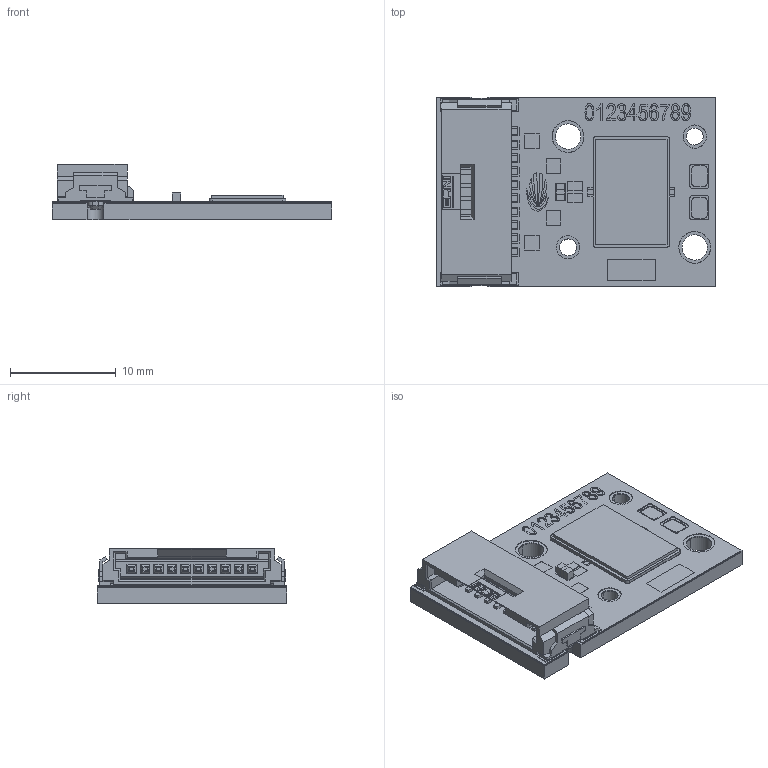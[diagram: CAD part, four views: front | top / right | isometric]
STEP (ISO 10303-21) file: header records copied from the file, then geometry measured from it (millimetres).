
FILE_DESCRIPTION(/* description */ (''),/* implementation_level */ '2;1');
FILE_NAME(/* name */ 'STE16FE',/* time_stamp */ '2025-01-14T14:14:21+08:00',/* author */ (''),/* organization */ (''),/* preprocessor_version */ 'ST-DEVELOPER v16.5',/* originating_system */ '',/* authorisation */ '');
FILE_SCHEMA (('CONFIG_CONTROL_DESIGN'));
Length unit declared in the file: millimetre
Products named in the file (1): Document
Bounding box: 26.5 x 18 x 5.23 mm (x, y, z)
Volume: 1064.1 mm3; surface area: 1958.1 mm2
Topology: 5 solids, 5 shells, 1480 faces, 3829 edges, 2448 vertices
Faces by surface type: plane 801, bspline 380, cylinder 299
Entity records: 61558 total; most frequent: CARTESIAN_POINT 32353, ORIENTED_EDGE 7658, EDGE_CURVE 3829, B_SPLINE_CURVE_WITH_KNOTS 2659, VERTEX_POINT 2448, EDGE_LOOP 1621, ADVANCED_FACE 1480, FACE_OUTER_BOUND 1480
